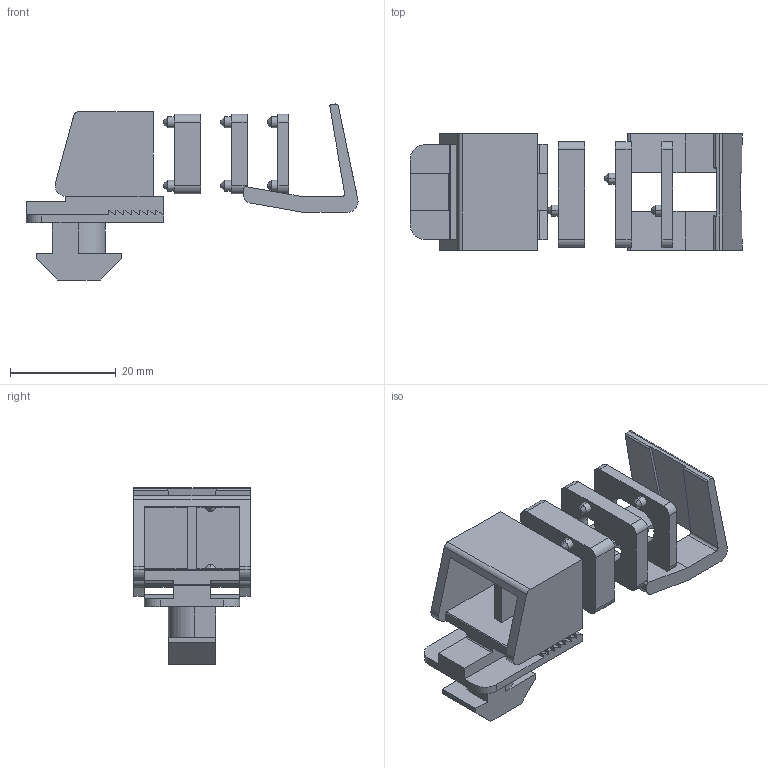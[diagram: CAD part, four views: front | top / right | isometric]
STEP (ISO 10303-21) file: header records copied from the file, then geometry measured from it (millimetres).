
FILE_DESCRIPTION (( 'STEP AP203' ), '1' );
FILE_NAME ('0110KBL.STEP', '2024-09-06T08:30:49', ( 'Windows-Benutzer' ), ( '' ), 'SwSTEP 2.0', 'SolidWorks 2024', '' );
FILE_SCHEMA (( 'CONFIG_CONTROL_DESIGN' ));
Length unit declared in the file: millimetre
Products named in the file (6): 094205-2_Standard<Wie bearbeitet>; 094103K_Standard<Wie bearbeitet>; 094205-1_Standard<Wie bearbeitet>; 094105K_Standard<Wie bearbeitet>; 094102K_Standard<Wie bearbeitet>; 0110KBL
Assembly tree (5 placements, depth 2):
  0110KBL
    094205-1_Standard<Wie bearbeitet>
    094205-2_Standard<Wie bearbeitet>
    094105K_Standard<Wie bearbeitet>
    094103K_Standard<Wie bearbeitet>
    094102K_Standard<Wie bearbeitet>
Bounding box: 62.71 x 22 x 33.25 mm (x, y, z)
Volume: 8598.9 mm3; surface area: 8969.2 mm2
Topology: 5 solids, 5 shells, 279 faces, 748 edges, 488 vertices
Faces by surface type: plane 185, cylinder 74, cone 20
Entity records: 9298 total; most frequent: CARTESIAN_POINT 1559, ORIENTED_EDGE 1496, DIRECTION 1470, EDGE_CURVE 748, LINE 576, VECTOR 576, VERTEX_POINT 488, AXIS2_PLACEMENT_3D 447
